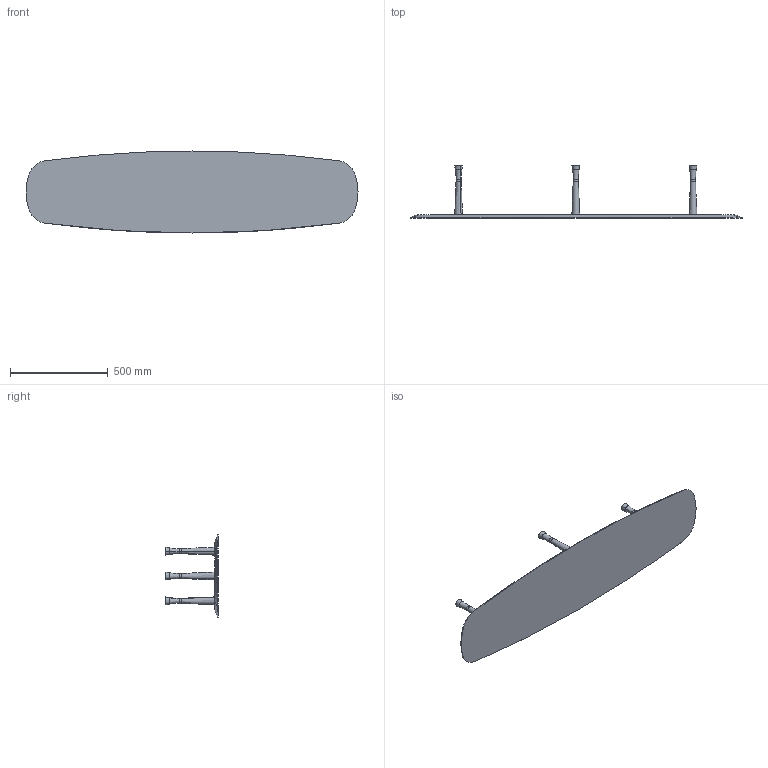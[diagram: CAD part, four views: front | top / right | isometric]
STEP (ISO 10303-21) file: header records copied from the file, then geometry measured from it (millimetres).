
FILE_DESCRIPTION (( 'STEP AP214' ), '1' );
FILE_NAME ('MESA_ÚNICA.STEP', '2018-04-03T09:55:46', ( '' ), ( '' ), 'SwSTEP 2.0', 'SolidWorks 2016', '' );
FILE_SCHEMA (( 'AUTOMOTIVE_DESIGN' ));
Length unit declared in the file: millimetre
Products named in the file (3): BALDA_MESA_CENTRO; MESA_ÚNICA; BASE_25
Assembly tree (5 placements, depth 2):
  MESA_ÚNICA
    BALDA_MESA_CENTRO
    BASE_25  x4
Bounding box: 1700 x 268 x 420 mm (x, y, z)
Volume: 11147647 mm3; surface area: 1405500.3 mm2
Topology: 5 solids, 5 shells, 84 faces, 166 edges, 100 vertices
Faces by surface type: cylinder 25, cone 25, plane 18, torus 16
Entity records: 1352 total; most frequent: DIRECTION 262, CARTESIAN_POINT 205, ORIENTED_EDGE 188, AXIS2_PLACEMENT_3D 115, EDGE_CURVE 94, CIRCLE 62, VERTEX_POINT 58, EDGE_LOOP 50
